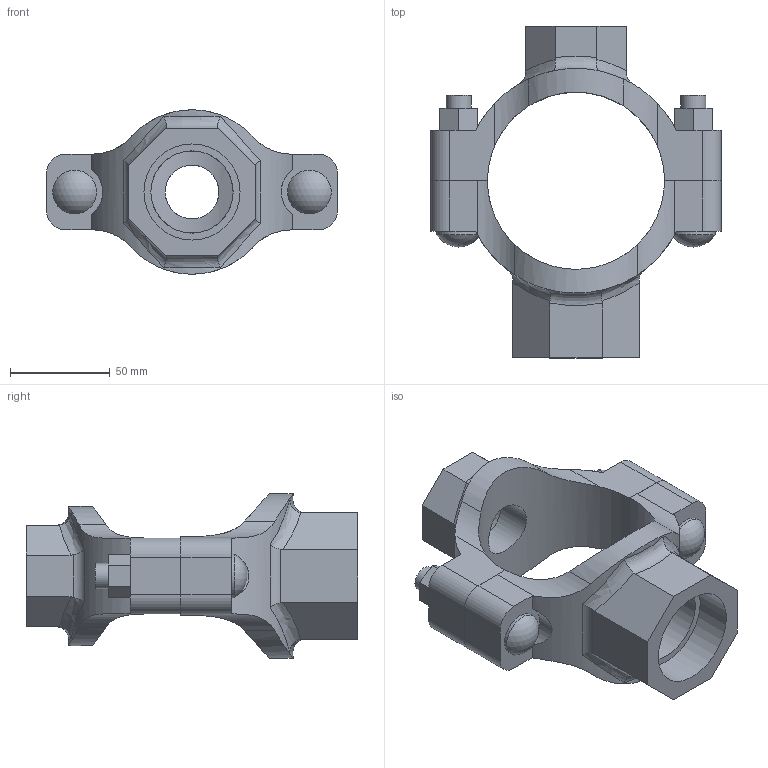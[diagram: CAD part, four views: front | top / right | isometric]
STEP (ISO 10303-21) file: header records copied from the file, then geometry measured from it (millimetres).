
FILE_DESCRIPTION(/* description */ ('VIC MECH-T BRANCH OUTLET CROSS STYLE 920N (THD)','CAx-IF Rec.Pracs.---Representation and Presentation of Product Manufacturing Information (PMI)---4.0---2014-10-13'),/* implementation_level */ '2;1');
FILE_NAME(/* name */ 'C:\Users\Vjadhav\AppData\Roaming\Autodesk\ApplicationPlugins\Back Up\Victaulic_IPS_Mechanical-Cross Outlet_Style 920N (FPT)\Victaulic_IPS_Mechanical-Cross Outlet_03.0x01.0x01.5 (80x25x40).stp',/* time_stamp */ '2020-08-06T18:57:32+05:00',/* author */ ('Vjadhav'),/* organization */ ('Victaulic'),/* preprocessor_version */ 'ST-DEVELOPER v17.2',/* originating_system */ 'Autodesk Inventor 2019',/* authorisation */ '');
FILE_SCHEMA (('AP242_MANAGED_MODEL_BASED_3D_ENGINEERING_MIM_LF { 1 0 10303 442 1 1 4 }'));
Length unit declared in the file: inch
Products named in the file (3): 920NT-03.0x01.0x01.5; 920NT-03.0x01.0; 920NT-03.0x01.5
Assembly tree (2 placements, depth 2):
  920NT-03.0x01.0x01.5
    920NT-03.0x01.0
    920NT-03.0x01.5
Bounding box: 146.05 x 166.62 x 82.55 mm (x, y, z)
Volume: 333618.6 mm3; surface area: 80451 mm2
Topology: 2 solids, 2 shells, 132 faces, 350 edges, 236 vertices
Faces by surface type: plane 68, cylinder 50, bspline 8, torus 4, sphere 2
Full cylindrical faces by diameter (mm): 12.7 x4, 21.982 x2, 26.987 x1, 33.401 x1, 41.275 x1, 48.26 x1
Entity records: 5148 total; most frequent: CARTESIAN_POINT 1635, ORIENTED_EDGE 700, DIRECTION 648, EDGE_CURVE 350, VERTEX_POINT 236, AXIS2_PLACEMENT_3D 231, LINE 186, VECTOR 186
